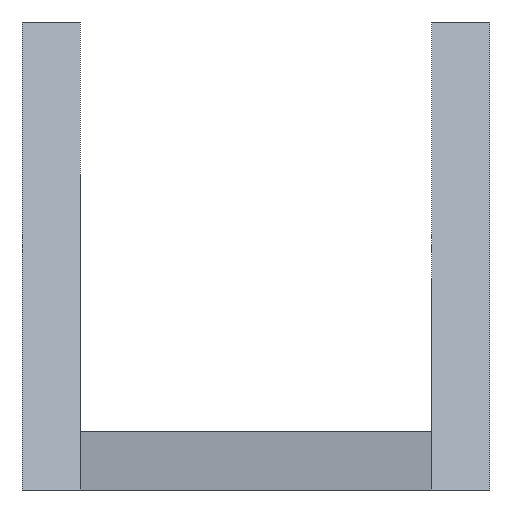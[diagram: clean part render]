
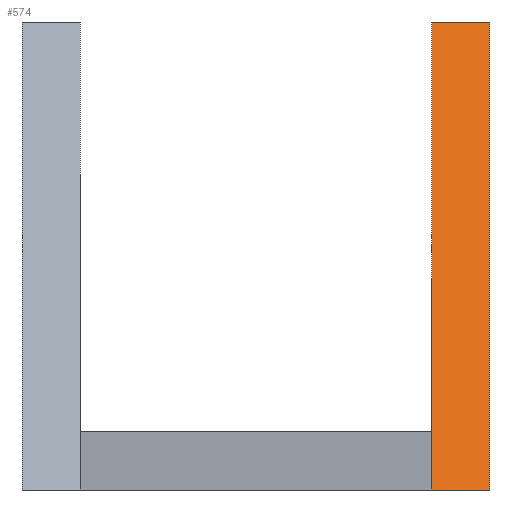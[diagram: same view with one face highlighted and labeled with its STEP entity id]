
A CAD part, front view. The second image highlights one B-rep face of the part: STEP entity #574.
In plain terms, the highlighted planar face has unit normal (0, -0.707, 0.707).
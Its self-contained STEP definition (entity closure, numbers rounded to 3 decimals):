
#191 = VERTEX_POINT('',#192);
#192 = CARTESIAN_POINT('',(601.825,418.032,12.7));
#198 = EDGE_CURVE('',#199,#191,#201,.T.);
#199 = VERTEX_POINT('',#200);
#200 = CARTESIAN_POINT('',(601.825,443.432,38.1));
#201 = LINE('',#202,#203);
#202 = CARTESIAN_POINT('',(601.825,663.653,258.321));
#203 = VECTOR('',#204,1.);
#204 = DIRECTION('',(0.,-0.707,-0.707));
#556 = EDGE_CURVE('',#557,#199,#559,.T.);
#557 = VERTEX_POINT('',#558);
#558 = CARTESIAN_POINT('',(605.,443.432,38.1));
#559 = LINE('',#560,#561);
#560 = CARTESIAN_POINT('',(580.413,443.432,38.1));
#561 = VECTOR('',#562,1.);
#562 = DIRECTION('',(-1.,0.,0.));
#574 = ADVANCED_FACE('',(#575),#593,.F.);
#575 = FACE_BOUND('',#576,.F.);
#576 = EDGE_LOOP('',(#577,#585,#586,#587));
#577 = ORIENTED_EDGE('',*,*,#578,.F.);
#578 = EDGE_CURVE('',#191,#579,#581,.T.);
#579 = VERTEX_POINT('',#580);
#580 = CARTESIAN_POINT('',(605.,418.032,12.7));
#581 = LINE('',#582,#583);
#582 = CARTESIAN_POINT('',(576.15,418.032,12.7));
#583 = VECTOR('',#584,1.);
#584 = DIRECTION('',(1.,0.,0.));
#585 = ORIENTED_EDGE('',*,*,#198,.F.);
#586 = ORIENTED_EDGE('',*,*,#556,.F.);
#587 = ORIENTED_EDGE('',*,*,#588,.F.);
#588 = EDGE_CURVE('',#579,#557,#589,.T.);
#589 = LINE('',#590,#591);
#590 = CARTESIAN_POINT('',(605.,736.789,331.457));
#591 = VECTOR('',#592,1.);
#592 = DIRECTION('',(0.,0.707,0.707));
#593 = PLANE('',#594);
#594 = AXIS2_PLACEMENT_3D('',#595,#596,#597);
#595 = CARTESIAN_POINT('',(560.,478.032,72.7));
#596 = DIRECTION('',(0.,0.707,-0.707));
#597 = DIRECTION('',(0.,-0.707,-0.707));
